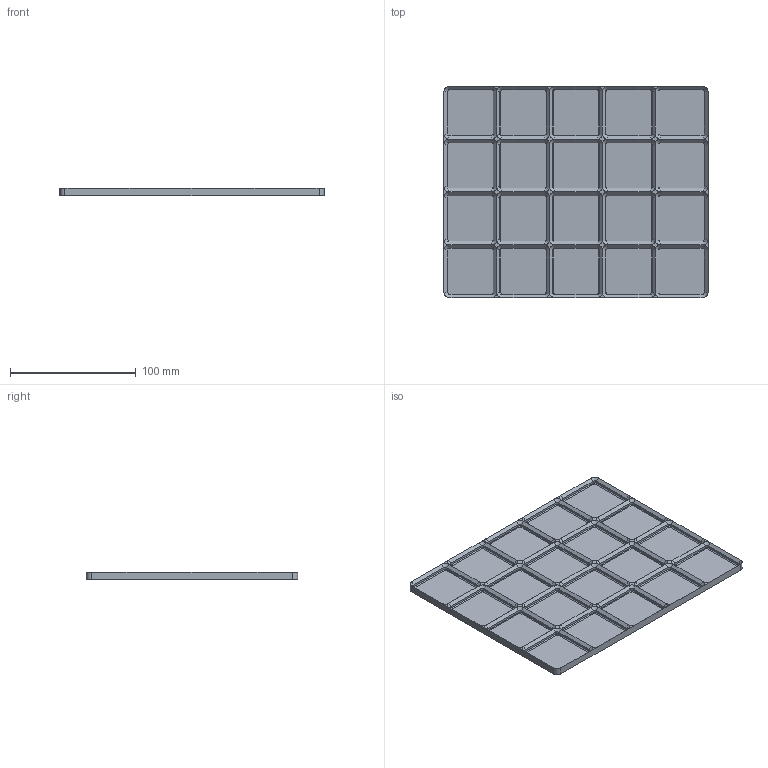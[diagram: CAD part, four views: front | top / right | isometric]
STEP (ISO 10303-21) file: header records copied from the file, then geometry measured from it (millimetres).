
FILE_DESCRIPTION(('Open CASCADE Model'),'2;1');
FILE_NAME('Open CASCADE Shape Model','2026-11-16T17:31:09',('Author'),( 'Open CASCADE'),'Open CASCADE STEP processor 8.0','build123d', 'Unknown');
FILE_SCHEMA(('AUTOMOTIVE_DESIGN { 1 0 10303 214 1 1 1 1 }'));
Length unit declared in the file: millimetre
Products named in the file (1): SOLID
Bounding box: 210 x 168 x 5.85 mm (x, y, z)
Volume: 68085 mm3; surface area: 83822.4 mm2
Topology: 1 solids, 1 shells, 535 faces, 1119 edges, 586 vertices
Faces by surface type: plane 291, cone 160, cylinder 84
Entity records: 28010 total; most frequent: CARTESIAN_POINT 6083, DIRECTION 3949, ORIENTED_EDGE 2238, PCURVE 2238, DEFINITIONAL_REPRESENTATION 2238, LINE 2229, VECTOR 2229, EDGE_CURVE 1119
